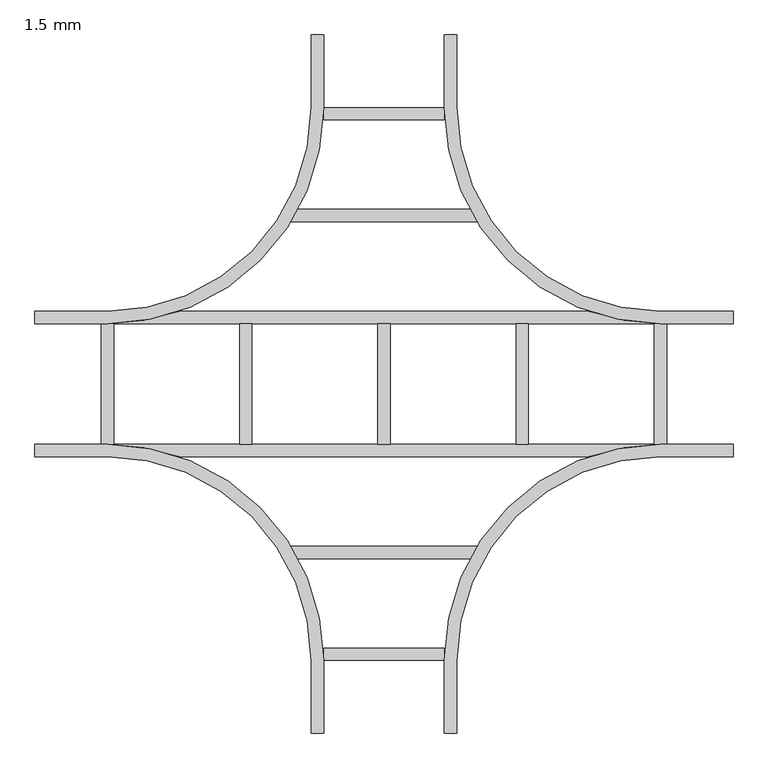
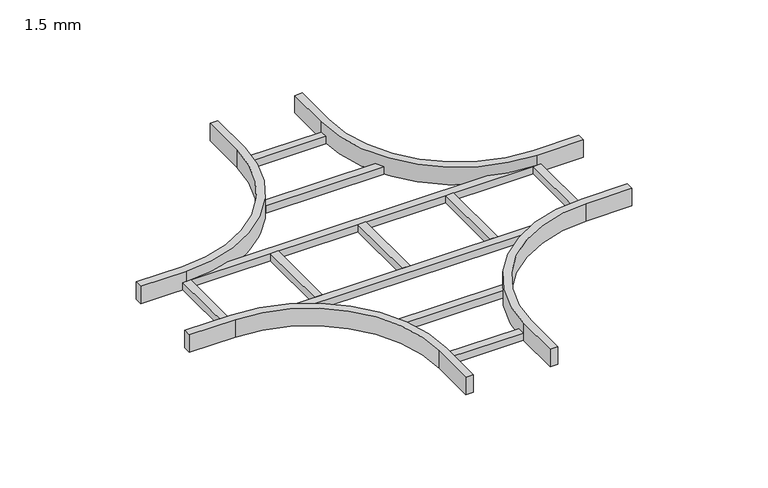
"""IFC4 building model written with IfcOpenShell, lengths in millimetres: cable carrier fitting geometry, BAKS_Czwórnik_drabiny E90 : 1.5 mm."""

from ifc_helpers import new_model, si_unit, frame, origin, place, context, project, spatial, polyline, circle_curve, outline, extrude, source, transform, mapped, element, save
from ifc_brep_helpers import plane_surface, cylinder_surface, revolved_surface, advanced_brep


def cable_carrier_fitting_1_5_mm_19f47176(model_context):
    return source(origin(), model_context, "Body", "SolidModel", [
        extrude(outline(polyline([(191.8889052, -334.6), (191.8889052, -360.0), (-191.8889052, -360.0), (-191.8889052, -334.6), (191.8889052, -334.6)])), frame((0.0, 0.0, -30.0), z_axis=(0.0, 0.0, 1.0), x_axis=(1.0, 0.0, 0.0)), (0.0, 0.0, 1.0), 25.4),
        extrude(outline(polyline([(191.8889052, 360.0), (191.8889052, 334.6), (-191.8889052, 334.6), (-191.8889052, 360.0), (191.8889052, 360.0)])), frame((0.0, 0.0, -30.0), z_axis=(0.0, 0.0, 1.0), x_axis=(1.0, 0.0, 0.0)), (0.0, 0.0, 1.0), 25.4),
        extrude(outline(polyline([(124.6, -544.6), (124.6, -570.0), (-124.6, -570.0), (-124.6, -544.6), (124.6, -544.6)])), frame((0.0, 0.0, -30.0), z_axis=(0.0, 0.0, 1.0), x_axis=(1.0, 0.0, 0.0)), (0.0, 0.0, 1.0), 25.4),
        extrude(outline(polyline([(124.6, 570.0), (124.6, 544.6), (-124.6, 544.6), (-124.6, 570.0), (124.6, 570.0)])), frame((0.0, 0.0, -30.0), z_axis=(0.0, 0.0, 1.0), x_axis=(1.0, 0.0, 0.0)), (0.0, 0.0, 1.0), 25.4),
        extrude(outline(polyline([(582.7, 124.6), (582.7, -124.6), (557.3, -124.6), (557.3, 124.6), (582.7, 124.6)])), frame((0.0, 0.0, -30.0), z_axis=(0.0, 0.0, 1.0), x_axis=(1.0, 0.0, 0.0)), (0.0, 0.0, 1.0), 25.4),
        extrude(outline(polyline([(297.7, 124.6), (297.7, -124.6), (272.3, -124.6), (272.3, 124.6), (297.7, 124.6)])), frame((0.0, 0.0, -30.0), z_axis=(0.0, 0.0, 1.0), x_axis=(1.0, 0.0, 0.0)), (0.0, 0.0, 1.0), 25.4),
        extrude(outline(polyline([(12.7, 124.6), (12.7, -124.6), (-12.7, -124.6), (-12.7, 124.6), (12.7, 124.6)])), frame((0.0, 0.0, -30.0), z_axis=(0.0, 0.0, 1.0), x_axis=(1.0, 0.0, 0.0)), (0.0, 0.0, 1.0), 25.4),
        extrude(outline(polyline([(-272.3, 124.6), (-272.3, -124.6), (-297.7, -124.6), (-297.7, 124.6), (-272.3, 124.6)])), frame((0.0, 0.0, -30.0), z_axis=(0.0, 0.0, 1.0), x_axis=(1.0, 0.0, 0.0)), (0.0, 0.0, 1.0), 25.4),
        extrude(outline(polyline([(-557.3, 124.6), (-557.3, -124.6), (-582.7, -124.6), (-582.7, 124.6), (-557.3, 124.6)])), frame((0.0, 0.0, -30.0), z_axis=(0.0, 0.0, 1.0), x_axis=(1.0, 0.0, 0.0)), (0.0, 0.0, 1.0), 25.4),
        advanced_brep(
        [(-150.0, -570.0, 30.0), (-150.0, -720.0, 30.0), (-124.6, -720.0, 30.0), (-124.6, -570.0, 30.0), (-570.0, -124.6, 30.0), (-720.0, -124.6, 30.0), (-720.0, -150.0, 30.0), (-570.0, -150.0, 30.0), (150.0, -570.0, 30.0), (570.0, -150.0, 30.0), (720.0, -150.0, 30.0), (720.0, -124.6, 30.0), (570.0, -124.6, 30.0), (124.6, -570.0, 30.0), (124.6, -720.0, 30.0), (150.0, -720.0, 30.0), (-150.0, -570.0, -30.0), (-570.0, -150.0, -30.0), (-720.0, -150.0, -30.0), (-720.0, -124.6, -30.0), (720.0, -124.6, -30.0), (720.0, -150.0, -30.0), (570.0, -150.0, -30.0), (150.0, -570.0, -30.0), (150.0, -720.0, -30.0), (124.6, -720.0, -30.0), (124.6, -570.0, -30.0), (421.7395535, -150.0, -30.0), (-421.7395535, -150.0, -30.0), (-124.6, -570.0, -30.0), (-124.6, -720.0, -30.0), (-150.0, -720.0, -30.0), (-421.7395535, -150.0, -4.6), (-570.0, -124.6, -4.6), (570.0, -124.6, -4.6), (-570.0, -150.0, -4.6), (570.0, -150.0, -4.6), (421.7395535, -150.0, -4.6)],
        [
            (0, 1),
            (1, 2),
            (2, 3),
            (3, 4, circle_curve(frame((-570.0, -570.0, 30.0), z_axis=(0.0, 0.0, 1.0), x_axis=(1.0, 0.0, 0.0)), 445.4)),
            (4, 5),
            (5, 6),
            (6, 7),
            (7, 0, circle_curve(frame((-570.0, -570.0, 30.0), z_axis=(0.0, 0.0, -1.0), x_axis=(1.0, 0.0, 0.0)), 420.0)),
            (8, 9, circle_curve(frame((570.0, -570.0, 30.0), z_axis=(0.0, 0.0, -1.0), x_axis=(1.0, 0.0, 0.0)), 420.0)),
            (9, 10),
            (10, 11),
            (11, 12),
            (12, 13, circle_curve(frame((570.0, -570.0, 30.0), z_axis=(0.0, 0.0, 1.0), x_axis=(1.0, 0.0, 0.0)), 445.4)),
            (13, 14),
            (14, 15),
            (15, 8),
            (16, 17, circle_curve(frame((-570.0, -570.0, -30.0), z_axis=(0.0, 0.0, 1.0), x_axis=(1.0, 0.0, 0.0)), 420.0)),
            (17, 18),
            (18, 19),
            (19, 20),
            (20, 21),
            (21, 22),
            (22, 23, circle_curve(frame((570.0, -570.0, -30.0), z_axis=(0.0, 0.0, 1.0), x_axis=(1.0, 0.0, 0.0)), 420.0)),
            (23, 24),
            (24, 25),
            (25, 26),
            (26, 27, circle_curve(frame((570.0, -570.0, -30.0), z_axis=(0.0, 0.0, -1.0), x_axis=(1.0, 0.0, 0.0)), 445.4)),
            (27, 28),
            (28, 29, circle_curve(frame((-570.0, -570.0, -30.0), z_axis=(0.0, 0.0, -1.0), x_axis=(1.0, 0.0, 0.0)), 445.4)),
            (29, 30),
            (30, 31),
            (31, 16),
            (0, 16),
            (31, 1),
            (30, 2),
            (29, 3),
            (28, 32),
            (32, 33, circle_curve(frame((-570.0, -570.0, -4.6), z_axis=(0.0, 0.0, 1.0), x_axis=(1.0, 0.0, 0.0)), 445.4)),
            (33, 4),
            (33, 34),
            (34, 12),
            (11, 20),
            (19, 5),
            (18, 6),
            (17, 35),
            (35, 7),
            (8, 23),
            (22, 36),
            (36, 9),
            (21, 10),
            (34, 37, circle_curve(frame((570.0, -570.0, -4.6), z_axis=(0.0, 0.0, 1.0), x_axis=(1.0, 0.0, 0.0)), 445.4)),
            (37, 27),
            (26, 13),
            (25, 14),
            (24, 15),
            (32, 37),
        ],
        [
            plane_surface(frame((-150.0, -570.0, 30.0), z_axis=(0.0, 0.0, 1.0), x_axis=(0.0, -1.0, 0.0))),
            plane_surface(frame((-150.0, -570.0, -30.0), z_axis=(0.0, 0.0, -1.0), x_axis=(0.0, 1.0, 0.0))),
            plane_surface(frame((-150.0, -570.0, 30.0), z_axis=(-1.0, 0.0, 0.0), x_axis=(0.0, 0.0, -1.0))),
            plane_surface(frame((-150.0, -720.0, 30.0), z_axis=(0.0, -1.0, 0.0), x_axis=(0.0, 0.0, -1.0))),
            plane_surface(frame((-124.6, -720.0, 30.0), z_axis=(1.0, 0.0, 0.0), x_axis=(0.0, 0.0, -1.0))),
            cylinder_surface(frame((-570.0, -570.0, -30.0), z_axis=(0.0, 0.0, 1.0), x_axis=(1.0, 0.0, 0.0)), 445.4),
            plane_surface(frame((-570.0, -124.6, 30.0), z_axis=(0.0, 1.0, 0.0), x_axis=(0.0, 0.0, -1.0))),
            plane_surface(frame((-720.0, -124.6, 30.0), z_axis=(-1.0, 0.0, 0.0), x_axis=(0.0, 0.0, -1.0))),
            plane_surface(frame((-720.0, -150.0, 30.0), z_axis=(0.0, -1.0, 0.0), x_axis=(0.0, 0.0, -1.0))),
            revolved_surface(polyline([(-150.0, -570.0, -30.0), (-150.0, -570.0, 30.0)]), (-570.0, -570.0, -30.0), (0.0, 0.0, -1.0)),
            revolved_surface(polyline([(990.0, -570.0, -30.0), (990.0, -570.0, 30.0)]), (570.0, -570.0, 0.0), (0.0, 0.0, -1.0)),
            plane_surface(frame((570.0, -150.0, 30.0), z_axis=(0.0, -1.0, 0.0), x_axis=(0.0, 0.0, -1.0))),
            plane_surface(frame((720.0, -150.0, 30.0), z_axis=(1.0, 0.0, 0.0), x_axis=(0.0, 0.0, -1.0))),
            cylinder_surface(frame((570.0, -570.0, 0.0), z_axis=(0.0, 0.0, 1.0), x_axis=(1.0, 0.0, 0.0)), 445.4),
            plane_surface(frame((124.6, -570.0, 30.0), z_axis=(-1.0, 0.0, 0.0), x_axis=(0.0, 0.0, -1.0))),
            plane_surface(frame((124.6, -720.0, 30.0), z_axis=(0.0, -1.0, 0.0), x_axis=(0.0, 0.0, -1.0))),
            plane_surface(frame((150.0, -720.0, 30.0), z_axis=(1.0, 0.0, 0.0), x_axis=(0.0, 0.0, -1.0))),
            plane_surface(frame((-570.0, -124.6, -4.6), z_axis=(0.0, 0.0, 1.0), x_axis=(-1.0, 0.0, 0.0))),
            plane_surface(frame((-570.0, -150.0, -4.6), z_axis=(0.0, -1.0, 0.0), x_axis=(0.0, 0.0, -1.0))),
        ],
        [
            (0, [[1, 2, 3, 4, 5, 6, 7, 8]]),
            (0, [[9, 10, 11, 12, 13, 14, 15, 16]]),
            (1, [[17, 18, 19, 20, 21, 22, 23, 24, 25, 26, 27, 28, 29, 30, 31, 32]]),
            (2, [[-1, 33, -32, 34]]),
            (3, [[-2, -34, -31, 35]]),
            (4, [[-3, -35, -30, 36]]),
            (5, [[-4, -36, -29, 37, 38, 39]]),
            (6, [[-5, -39, 40, 41, -12, 42, -20, 43]]),
            (7, [[-6, -43, -19, 44]]),
            (8, [[-7, -44, -18, 45, 46]]),
            (9, [[-8, -46, -45, -17, -33]]),
            (10, [[-9, 47, -23, 48, 49]]),
            (11, [[-10, -49, -48, -22, 50]]),
            (12, [[-11, -50, -21, -42]]),
            (13, [[-13, -41, 51, 52, -27, 53]]),
            (14, [[-14, -53, -26, 54]]),
            (15, [[-15, -54, -25, 55]]),
            (16, [[-16, -55, -24, -47]]),
            (17, [[-40, -38, 56, -51]]),
            (18, [[-28, -52, -56, -37]]),
        ],
    ),
        advanced_brep(
        [(-124.6, 570.0, 30.0), (-124.6, 720.0, 30.0), (-150.0, 720.0, 30.0), (-150.0, 570.0, 30.0), (-570.0, 150.0, 30.0), (-720.0, 150.0, 30.0), (-720.0, 124.6, 30.0), (-570.0, 124.6, 30.0), (124.6, 570.0, 30.0), (570.0, 124.6, 30.0), (720.0, 124.6, 30.0), (720.0, 150.0, 30.0), (570.0, 150.0, 30.0), (150.0, 570.0, 30.0), (150.0, 720.0, 30.0), (124.6, 720.0, 30.0), (-720.0, 124.6, -30.0), (-720.0, 150.0, -30.0), (-570.0, 150.0, -30.0), (-150.0, 570.0, -30.0), (-150.0, 720.0, -30.0), (-124.6, 720.0, -30.0), (-124.6, 570.0, -30.0), (-421.7395535, 150.0, -30.0), (421.7395535, 150.0, -30.0), (124.6, 570.0, -30.0), (124.6, 720.0, -30.0), (150.0, 720.0, -30.0), (150.0, 570.0, -30.0), (570.0, 150.0, -30.0), (720.0, 150.0, -30.0), (720.0, 124.6, -30.0), (-570.0, 124.6, -4.6), (570.0, 124.6, -4.6), (421.7395535, 150.0, -4.6), (-421.7395535, 150.0, -4.6), (-570.0, 150.0, -4.6), (570.0, 150.0, -4.6)],
        [
            (0, 1),
            (1, 2),
            (2, 3),
            (3, 4, circle_curve(frame((-570.0, 570.0, 30.0), z_axis=(0.0, 0.0, -1.0), x_axis=(1.0, 0.0, 0.0)), 420.0)),
            (4, 5),
            (5, 6),
            (6, 7),
            (7, 0, circle_curve(frame((-570.0, 570.0, 30.0), z_axis=(0.0, 0.0, 1.0), x_axis=(1.0, 0.0, 0.0)), 445.4)),
            (8, 9, circle_curve(frame((570.0, 570.0, 30.0), z_axis=(0.0, 0.0, 1.0), x_axis=(1.0, 0.0, 0.0)), 445.4)),
            (9, 10),
            (10, 11),
            (11, 12),
            (12, 13, circle_curve(frame((570.0, 570.0, 30.0), z_axis=(0.0, 0.0, -1.0), x_axis=(1.0, 0.0, 0.0)), 420.0)),
            (13, 14),
            (14, 15),
            (15, 8),
            (16, 17),
            (17, 18),
            (18, 19, circle_curve(frame((-570.0, 570.0, -30.0), z_axis=(0.0, 0.0, 1.0), x_axis=(1.0, 0.0, 0.0)), 420.0)),
            (19, 20),
            (20, 21),
            (21, 22),
            (22, 23, circle_curve(frame((-570.0, 570.0, -30.0), z_axis=(0.0, 0.0, -1.0), x_axis=(1.0, 0.0, 0.0)), 445.4)),
            (23, 24),
            (24, 25, circle_curve(frame((570.0, 570.0, -30.0), z_axis=(0.0, 0.0, -1.0), x_axis=(1.0, 0.0, 0.0)), 445.4)),
            (25, 26),
            (26, 27),
            (27, 28),
            (28, 29, circle_curve(frame((570.0, 570.0, -30.0), z_axis=(0.0, 0.0, 1.0), x_axis=(1.0, 0.0, 0.0)), 420.0)),
            (29, 30),
            (30, 31),
            (31, 16),
            (32, 33),
            (33, 34, circle_curve(frame((570.0, 570.0, -4.6), z_axis=(0.0, 0.0, -1.0), x_axis=(1.0, 0.0, 0.0)), 445.4)),
            (34, 35),
            (35, 32, circle_curve(frame((-570.0, 570.0, -4.6), z_axis=(0.0, 0.0, -1.0), x_axis=(1.0, 0.0, 0.0)), 445.4)),
            (0, 22),
            (21, 1),
            (20, 2),
            (19, 3),
            (18, 36),
            (36, 4),
            (17, 5),
            (16, 6),
            (31, 10),
            (9, 33),
            (32, 7),
            (35, 23),
            (8, 25),
            (24, 34),
            (30, 11),
            (29, 37),
            (37, 12),
            (28, 13),
            (27, 14),
            (26, 15),
        ],
        [
            plane_surface(frame((-150.0, -570.0, 30.0), z_axis=(0.0, 0.0, 1.0), x_axis=(0.0, -1.0, 0.0))),
            plane_surface(frame((-150.0, -570.0, -30.0), z_axis=(0.0, 0.0, -1.0), x_axis=(0.0, 1.0, 0.0))),
            plane_surface(frame((-570.0, -124.6, -4.6), z_axis=(0.0, 0.0, 1.0), x_axis=(-1.0, 0.0, 0.0))),
            plane_surface(frame((-124.6, 570.0, 30.0), z_axis=(1.0, 0.0, 0.0), x_axis=(0.0, 0.0, -1.0))),
            plane_surface(frame((-124.6, 720.0, 30.0), z_axis=(0.0, 1.0, 0.0), x_axis=(0.0, 0.0, -1.0))),
            plane_surface(frame((-150.0, 720.0, 30.0), z_axis=(-1.0, 0.0, 0.0), x_axis=(0.0, 0.0, -1.0))),
            revolved_surface(polyline([(-150.0, 570.0, -30.0), (-150.0, 570.0, 30.0)]), (-570.0, 570.0, 0.0), (0.0, 0.0, -1.0)),
            plane_surface(frame((-570.0, 150.0, 30.0), z_axis=(0.0, 1.0, 0.0), x_axis=(0.0, 0.0, -1.0))),
            plane_surface(frame((-720.0, 150.0, 30.0), z_axis=(-1.0, 0.0, 0.0), x_axis=(0.0, 0.0, -1.0))),
            plane_surface(frame((-720.0, 124.6, 30.0), z_axis=(0.0, -1.0, 0.0), x_axis=(0.0, 0.0, -1.0))),
            cylinder_surface(frame((-570.0, 570.0, 0.0), z_axis=(0.0, 0.0, 1.0), x_axis=(1.0, 0.0, 0.0)), 445.4),
            cylinder_surface(frame((570.0, 570.0, 0.0), z_axis=(0.0, 0.0, 1.0), x_axis=(1.0, 0.0, 0.0)), 445.4),
            plane_surface(frame((720.0, 124.6, 30.0), z_axis=(1.0, 0.0, 0.0), x_axis=(0.0, 0.0, -1.0))),
            plane_surface(frame((720.0, 150.0, 30.0), z_axis=(0.0, 1.0, 0.0), x_axis=(0.0, 0.0, -1.0))),
            revolved_surface(polyline([(990.0, 570.0, -30.0), (990.0, 570.0, 30.0)]), (570.0, 570.0, 0.0), (0.0, 0.0, -1.0)),
            plane_surface(frame((150.0, 570.0, 30.0), z_axis=(1.0, 0.0, 0.0), x_axis=(0.0, 0.0, -1.0))),
            plane_surface(frame((150.0, 720.0, 30.0), z_axis=(0.0, 1.0, 0.0), x_axis=(0.0, 0.0, -1.0))),
            plane_surface(frame((124.6, 720.0, 30.0), z_axis=(-1.0, 0.0, 0.0), x_axis=(0.0, 0.0, -1.0))),
            plane_surface(frame((570.0, 150.0, -4.6), z_axis=(0.0, 1.0, 0.0), x_axis=(0.0, 0.0, -1.0))),
        ],
        [
            (0, [[1, 2, 3, 4, 5, 6, 7, 8]]),
            (0, [[9, 10, 11, 12, 13, 14, 15, 16]]),
            (1, [[17, 18, 19, 20, 21, 22, 23, 24, 25, 26, 27, 28, 29, 30, 31, 32]]),
            (2, [[33, 34, 35, 36]]),
            (3, [[-1, 37, -22, 38]]),
            (4, [[-2, -38, -21, 39]]),
            (5, [[-3, -39, -20, 40]]),
            (6, [[-4, -40, -19, 41, 42]]),
            (7, [[-5, -42, -41, -18, 43]]),
            (8, [[-6, -43, -17, 44]]),
            (9, [[-7, -44, -32, 45, -10, 46, -33, 47]]),
            (10, [[-8, -47, -36, 48, -23, -37]]),
            (11, [[-9, 49, -25, 50, -34, -46]]),
            (12, [[-11, -45, -31, 51]]),
            (13, [[-12, -51, -30, 52, 53]]),
            (14, [[-13, -53, -52, -29, 54]]),
            (15, [[-14, -54, -28, 55]]),
            (16, [[-15, -55, -27, 56]]),
            (17, [[-16, -56, -26, -49]]),
            (18, [[-24, -48, -35, -50]]),
        ],
    ),
    ])


if __name__ == "__main__":
    model = new_model("IFC4")
    model_context = context("Model", 3, world=origin())
    ifc_project = project(units=[si_unit("LENGTHUNIT", "METRE", prefix="MILLI")], contexts=[model_context])
    site = spatial("IfcSite", under=ifc_project)
    building = spatial("IfcBuilding", under=site)
    placement = place(None, origin())
    cable_carrier_fitting_1_5_mm_shape = cable_carrier_fitting_1_5_mm_19f47176(model_context)
    element("IfcCableCarrierFitting", 1, ObjectType="BAKS_Czwórnik_drabiny E90 : 1.5 mm", at=placement, inside=building, context=model_context, shape_type="MappedRepresentation", body=[
        mapped(cable_carrier_fitting_1_5_mm_shape, transform((0.0, 0.0, 0.0), x_axis=(1.0, 0.0, 0.0), y_axis=(0.0, 1.0, 0.0), z_axis=(0.0, 0.0, 1.0))),
    ])
    save(model, "model.ifc")
